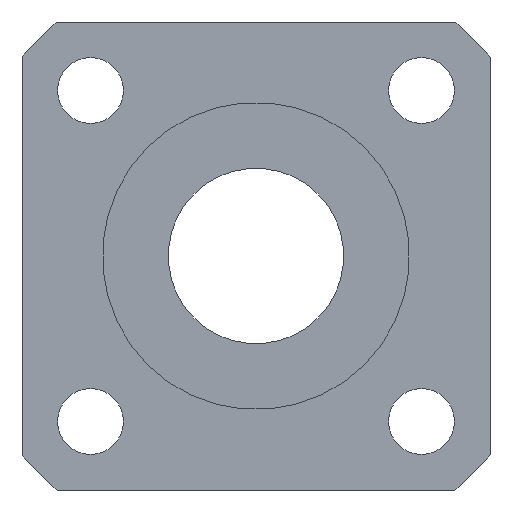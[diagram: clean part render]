
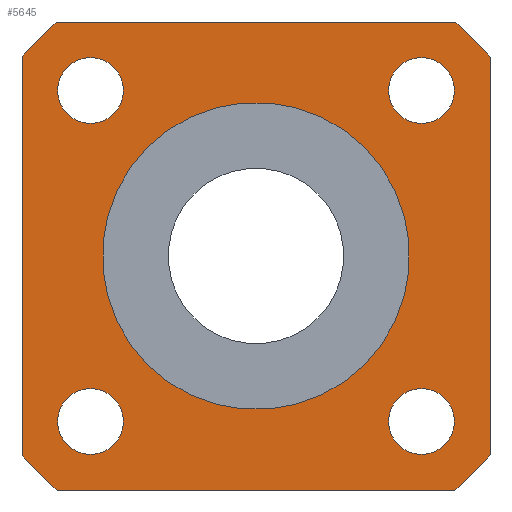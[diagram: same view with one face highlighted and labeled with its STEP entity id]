
A CAD part, left-side view. The second image highlights one B-rep face of the part: STEP entity #5645.
In plain terms, the highlighted planar face has unit normal (-1, 0, 0).
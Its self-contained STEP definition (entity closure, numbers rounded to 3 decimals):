
#107=CIRCLE('',#5988,21.);
#108=CIRCLE('',#5990,21.);
#109=CIRCLE('',#5992,21.);
#119=CIRCLE('',#6007,10.5);
#121=CIRCLE('',#6012,21.);
#122=CIRCLE('',#6014,2.25);
#123=CIRCLE('',#6015,2.25);
#124=CIRCLE('',#6016,2.25);
#125=CIRCLE('',#6017,2.25);
#333=LINE('',#8962,#1000);
#334=LINE('',#8963,#1001);
#335=LINE('',#8964,#1002);
#336=LINE('',#8965,#1003);
#1000=VECTOR('',#6564,1000.);
#1001=VECTOR('',#6565,1000.);
#1002=VECTOR('',#6566,1000.);
#1003=VECTOR('',#6567,1000.);
#1749=ORIENTED_EDGE('',*,*,#3376,.T.);
#1750=ORIENTED_EDGE('',*,*,#3356,.F.);
#1751=ORIENTED_EDGE('',*,*,#3377,.T.);
#1752=ORIENTED_EDGE('',*,*,#3359,.F.);
#1753=ORIENTED_EDGE('',*,*,#3378,.T.);
#1754=ORIENTED_EDGE('',*,*,#3373,.F.);
#1755=ORIENTED_EDGE('',*,*,#3379,.T.);
#1756=ORIENTED_EDGE('',*,*,#3354,.F.);
#1757=ORIENTED_EDGE('',*,*,#3380,.T.);
#1758=ORIENTED_EDGE('',*,*,#3381,.T.);
#1759=ORIENTED_EDGE('',*,*,#3382,.T.);
#1760=ORIENTED_EDGE('',*,*,#3383,.T.);
#1761=ORIENTED_EDGE('',*,*,#3371,.F.);
#3354=EDGE_CURVE('',#4170,#4171,#107,.T.);
#3356=EDGE_CURVE('',#4172,#4173,#108,.T.);
#3359=EDGE_CURVE('',#4174,#4175,#109,.T.);
#3371=EDGE_CURVE('',#4185,#4185,#119,.F.);
#3373=EDGE_CURVE('',#4187,#4188,#121,.T.);
#3376=EDGE_CURVE('',#4170,#4173,#333,.T.);
#3377=EDGE_CURVE('',#4172,#4175,#334,.T.);
#3378=EDGE_CURVE('',#4174,#4188,#335,.T.);
#3379=EDGE_CURVE('',#4187,#4171,#336,.T.);
#3380=EDGE_CURVE('',#4189,#4189,#122,.T.);
#3381=EDGE_CURVE('',#4190,#4190,#123,.T.);
#3382=EDGE_CURVE('',#4191,#4191,#124,.T.);
#3383=EDGE_CURVE('',#4192,#4192,#125,.T.);
#4170=VERTEX_POINT('',#8910);
#4171=VERTEX_POINT('',#8912);
#4172=VERTEX_POINT('',#8916);
#4173=VERTEX_POINT('',#8917);
#4174=VERTEX_POINT('',#8922);
#4175=VERTEX_POINT('',#8923);
#4185=VERTEX_POINT('',#8950);
#4187=VERTEX_POINT('',#8957);
#4188=VERTEX_POINT('',#8958);
#4189=VERTEX_POINT('',#8967);
#4190=VERTEX_POINT('',#8969);
#4191=VERTEX_POINT('',#8971);
#4192=VERTEX_POINT('',#8973);
#4643=EDGE_LOOP('',(#1749,#1750,#1751,#1752,#1753,#1754,#1755,#1756));
#4644=EDGE_LOOP('',(#1757));
#4645=EDGE_LOOP('',(#1758));
#4646=EDGE_LOOP('',(#1759));
#4647=EDGE_LOOP('',(#1760));
#4648=EDGE_LOOP('',(#1761));
#5042=FACE_BOUND('',#4643,.T.);
#5043=FACE_BOUND('',#4644,.T.);
#5044=FACE_BOUND('',#4645,.T.);
#5045=FACE_BOUND('',#4646,.T.);
#5046=FACE_BOUND('',#4647,.T.);
#5047=FACE_BOUND('',#4648,.T.);
#5386=PLANE('',#6013);
#5645=ADVANCED_FACE('',(#5042,#5043,#5044,#5045,#5046,#5047),#5386,.F.);
#5988=AXIS2_PLACEMENT_3D('',#8911,#6505,#6506);
#5990=AXIS2_PLACEMENT_3D('',#8915,#6510,#6511);
#5992=AXIS2_PLACEMENT_3D('',#8921,#6516,#6517);
#6007=AXIS2_PLACEMENT_3D('',#8949,#6548,#6549);
#6012=AXIS2_PLACEMENT_3D('',#8956,#6558,#6559);
#6013=AXIS2_PLACEMENT_3D('',#8961,#6562,#6563);
#6014=AXIS2_PLACEMENT_3D('',#8966,#6568,#6569);
#6015=AXIS2_PLACEMENT_3D('',#8968,#6570,#6571);
#6016=AXIS2_PLACEMENT_3D('',#8970,#6572,#6573);
#6017=AXIS2_PLACEMENT_3D('',#8972,#6574,#6575);
#6505=DIRECTION('',(1.,0.,0.));
#6506=DIRECTION('',(0.,0.707,-0.707));
#6510=DIRECTION('',(1.,0.,0.));
#6511=DIRECTION('',(0.,0.707,-0.707));
#6516=DIRECTION('',(1.,0.,0.));
#6517=DIRECTION('',(0.,0.707,-0.707));
#6548=DIRECTION('',(1.,0.,0.));
#6549=DIRECTION('',(0.,0.707,-0.707));
#6558=DIRECTION('',(1.,0.,0.));
#6559=DIRECTION('',(0.,0.707,-0.707));
#6562=DIRECTION('',(1.,0.,0.));
#6563=DIRECTION('',(0.,0.707,-0.707));
#6564=DIRECTION('',(0.,0.,1.));
#6565=DIRECTION('',(0.,1.,0.));
#6566=DIRECTION('',(0.,0.,-1.));
#6567=DIRECTION('',(0.,-1.,0.));
#6568=DIRECTION('',(1.,0.,0.));
#6569=DIRECTION('',(0.,0.707,-0.707));
#6570=DIRECTION('',(1.,0.,0.));
#6571=DIRECTION('',(0.,0.707,-0.707));
#6572=DIRECTION('',(1.,0.,0.));
#6573=DIRECTION('',(0.,0.707,-0.707));
#6574=DIRECTION('',(1.,0.,0.));
#6575=DIRECTION('',(0.,0.707,-0.707));
#8910=CARTESIAN_POINT('',(9.,-16.,-13.601));
#8911=CARTESIAN_POINT('',(9.,0.,0.));
#8912=CARTESIAN_POINT('',(9.,-13.601,-16.));
#8915=CARTESIAN_POINT('',(9.,0.,0.));
#8916=CARTESIAN_POINT('',(9.,-13.601,16.));
#8917=CARTESIAN_POINT('',(9.,-16.,13.601));
#8921=CARTESIAN_POINT('',(9.,0.,0.));
#8922=CARTESIAN_POINT('',(9.,16.,13.601));
#8923=CARTESIAN_POINT('',(9.,13.601,16.));
#8949=CARTESIAN_POINT('',(9.,0.,0.));
#8950=CARTESIAN_POINT('',(9.,7.425,-7.425));
#8956=CARTESIAN_POINT('',(9.,0.,0.));
#8957=CARTESIAN_POINT('',(9.,13.601,-16.));
#8958=CARTESIAN_POINT('',(9.,16.,-13.601));
#8961=CARTESIAN_POINT('',(9.,0.,0.));
#8962=CARTESIAN_POINT('',(9.,-16.,16.));
#8963=CARTESIAN_POINT('',(9.,16.,16.));
#8964=CARTESIAN_POINT('',(9.,16.,-16.));
#8965=CARTESIAN_POINT('',(9.,-16.,-16.));
#8966=CARTESIAN_POINT('',(9.,11.314,-11.314));
#8967=CARTESIAN_POINT('',(9.,12.905,-12.905));
#8968=CARTESIAN_POINT('',(9.,-11.314,-11.314));
#8969=CARTESIAN_POINT('',(9.,-9.723,-12.905));
#8970=CARTESIAN_POINT('',(9.,-11.314,11.314));
#8971=CARTESIAN_POINT('',(9.,-9.723,9.723));
#8972=CARTESIAN_POINT('',(9.,11.314,11.314));
#8973=CARTESIAN_POINT('',(9.,12.905,9.723));
